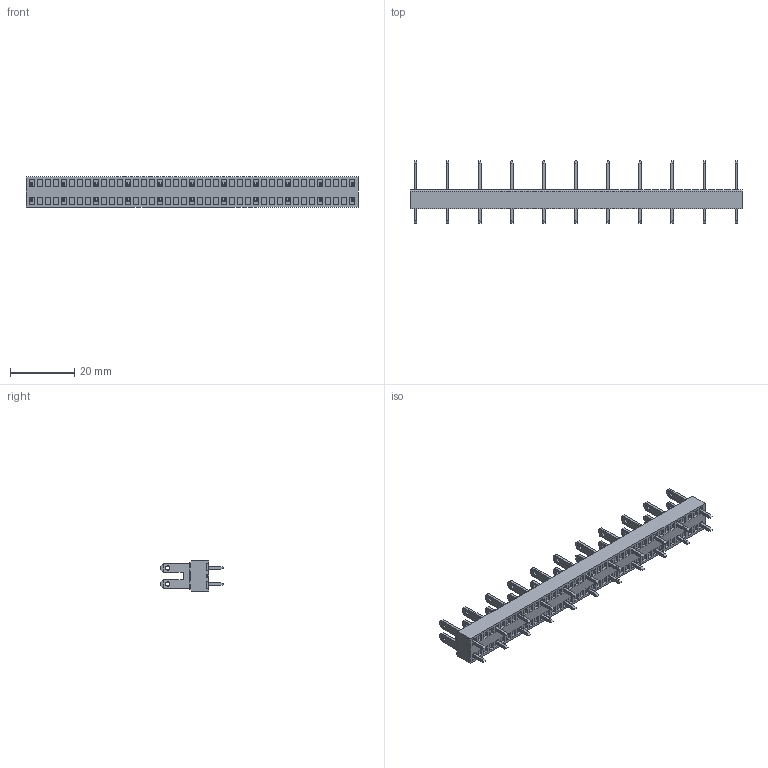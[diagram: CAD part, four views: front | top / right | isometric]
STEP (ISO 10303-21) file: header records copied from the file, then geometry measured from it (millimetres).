
FILE_DESCRIPTION (( 'STEP AP214' ), '1' );
FILE_NAME ('900-SH-10-11.STEP', '2007-11-04T01:10:42', ( ' ' ), ( '' ), 'SwSTEP 2.0', 'SolidWorks 2007', '' );
FILE_SCHEMA (( 'AUTOMOTIVE_DESIGN' ));
Length unit declared in the file: millimetre
Products named in the file (1): 900-SH-10-11
Bounding box: 103.5 x 19.5 x 9.4 mm (x, y, z)
Volume: 5977.4 mm3; surface area: 6198.7 mm2
Topology: 43 solids, 43 shells, 1971 faces, 4880 edges, 3140 vertices
Faces by surface type: plane 1779, cylinder 192
Entity records: 57547 total; most frequent: CARTESIAN_POINT 9992, ORIENTED_EDGE 9760, DIRECTION 9208, EDGE_CURVE 4880, VECTOR 4496, LINE 4496, VERTEX_POINT 3140, AXIS2_PLACEMENT_3D 2356
